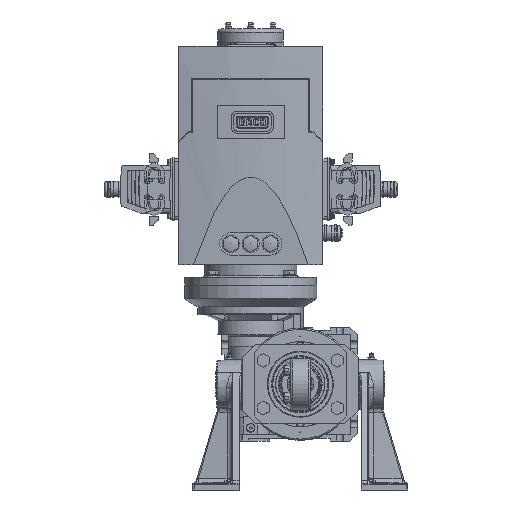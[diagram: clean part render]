
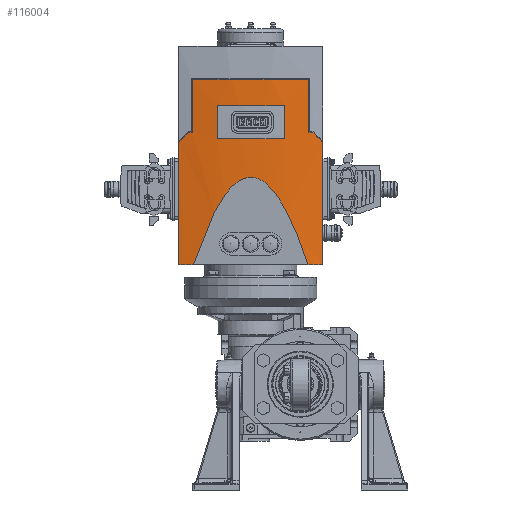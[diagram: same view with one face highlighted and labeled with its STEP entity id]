
A CAD part, front view. The second image highlights one B-rep face of the part: STEP entity #116004.
In plain terms, the highlighted cylindrical face has radius 545.5 mm (diameter 1091 mm), a partial arc.
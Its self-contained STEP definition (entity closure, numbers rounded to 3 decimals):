
#838=ELLIPSE('',#122634,771.453,545.5);
#839=ELLIPSE('',#122641,771.453,545.5);
#842=ELLIPSE('',#122656,10423.044,545.5);
#2537=CIRCLE('',#122636,545.5);
#2538=CIRCLE('',#122639,545.5);
#2539=CIRCLE('',#122643,545.5);
#2540=CIRCLE('',#122647,545.5);
#2541=CIRCLE('',#122649,545.5);
#2542=CIRCLE('',#122663,545.5);
#2543=CIRCLE('',#122664,545.5);
#12404=LINE('',#167459,#20235);
#12409=LINE('',#167473,#20240);
#12416=LINE('',#167493,#20247);
#12418=LINE('',#167497,#20249);
#12427=LINE('',#167530,#20258);
#12428=LINE('',#167535,#20259);
#20235=VECTOR('',#139618,1000.);
#20240=VECTOR('',#139633,1000.);
#20247=VECTOR('',#139654,1000.);
#20249=VECTOR('',#139658,1000.);
#20258=VECTOR('',#139701,1000.);
#20259=VECTOR('',#139706,1000.);
#36066=ORIENTED_EDGE('',*,*,#55076,.T.);
#36067=ORIENTED_EDGE('',*,*,#55090,.T.);
#36068=ORIENTED_EDGE('',*,*,#55083,.T.);
#36069=ORIENTED_EDGE('',*,*,#55086,.T.);
#36070=ORIENTED_EDGE('',*,*,#55088,.T.);
#36071=ORIENTED_EDGE('',*,*,#55111,.T.);
#36072=ORIENTED_EDGE('',*,*,#55112,.T.);
#36073=ORIENTED_EDGE('',*,*,#55104,.T.);
#36074=ORIENTED_EDGE('',*,*,#55113,.T.);
#36075=ORIENTED_EDGE('',*,*,#55114,.F.);
#36076=ORIENTED_EDGE('',*,*,#55079,.T.);
#36077=ORIENTED_EDGE('',*,*,#55082,.T.);
#36078=ORIENTED_EDGE('',*,*,#55095,.T.);
#36079=ORIENTED_EDGE('',*,*,#55097,.T.);
#36080=ORIENTED_EDGE('',*,*,#55093,.T.);
#36081=ORIENTED_EDGE('',*,*,#55098,.T.);
#55076=EDGE_CURVE('',#65562,#65563,#12404,.T.);
#55079=EDGE_CURVE('',#65564,#65565,#838,.T.);
#55082=EDGE_CURVE('',#65565,#65562,#2537,.T.);
#55083=EDGE_CURVE('',#65566,#65567,#12409,.T.);
#55086=EDGE_CURVE('',#65567,#65568,#2538,.T.);
#55088=EDGE_CURVE('',#65568,#65569,#839,.T.);
#55090=EDGE_CURVE('',#65563,#65566,#2539,.T.);
#55093=EDGE_CURVE('',#65570,#65571,#12416,.T.);
#55095=EDGE_CURVE('',#65573,#65572,#12418,.T.);
#55097=EDGE_CURVE('',#65572,#65570,#2540,.T.);
#55098=EDGE_CURVE('',#65571,#65573,#2541,.T.);
#55104=EDGE_CURVE('',#65576,#65577,#842,.T.);
#55111=EDGE_CURVE('',#65569,#65580,#12427,.T.);
#55112=EDGE_CURVE('',#65580,#65576,#2542,.T.);
#55113=EDGE_CURVE('',#65577,#65581,#2543,.T.);
#55114=EDGE_CURVE('',#65564,#65581,#12428,.T.);
#65562=VERTEX_POINT('',#167460);
#65563=VERTEX_POINT('',#167461);
#65564=VERTEX_POINT('',#167466);
#65565=VERTEX_POINT('',#167467);
#65566=VERTEX_POINT('',#167474);
#65567=VERTEX_POINT('',#167475);
#65568=VERTEX_POINT('',#167480);
#65569=VERTEX_POINT('',#167484);
#65570=VERTEX_POINT('',#167490);
#65571=VERTEX_POINT('',#167492);
#65572=VERTEX_POINT('',#167496);
#65573=VERTEX_POINT('',#167498);
#65576=VERTEX_POINT('',#167516);
#65577=VERTEX_POINT('',#167517);
#65580=VERTEX_POINT('',#167531);
#65581=VERTEX_POINT('',#167534);
#73335=EDGE_LOOP('',(#36066,#36067,#36068,#36069,#36070,#36071,#36072,#36073,
#36074,#36075,#36076,#36077));
#73336=EDGE_LOOP('',(#36078,#36079,#36080,#36081));
#79320=FACE_BOUND('',#73335,.T.);
#79321=FACE_BOUND('',#73336,.T.);
#82795=CYLINDRICAL_SURFACE('',#122662,545.5);
#116004=ADVANCED_FACE('',(#79320,#79321),#82795,.T.);
#122634=AXIS2_PLACEMENT_3D('',#167465,#139623,#139624);
#122636=AXIS2_PLACEMENT_3D('',#167471,#139629,#139630);
#122639=AXIS2_PLACEMENT_3D('',#167479,#139638,#139639);
#122641=AXIS2_PLACEMENT_3D('',#167483,#139643,#139644);
#122643=AXIS2_PLACEMENT_3D('',#167487,#139648,#139649);
#122647=AXIS2_PLACEMENT_3D('',#167501,#139662,#139663);
#122649=AXIS2_PLACEMENT_3D('',#167503,#139666,#139667);
#122656=AXIS2_PLACEMENT_3D('',#167515,#139683,#139684);
#122662=AXIS2_PLACEMENT_3D('',#167529,#139699,#139700);
#122663=AXIS2_PLACEMENT_3D('',#167532,#139702,#139703);
#122664=AXIS2_PLACEMENT_3D('',#167533,#139704,#139705);
#139618=DIRECTION('',(0.,1.,0.));
#139623=DIRECTION('',(-0.707,-0.707,0.));
#139624=DIRECTION('',(0.707,-0.707,0.));
#139629=DIRECTION('',(0.,-1.,0.));
#139630=DIRECTION('',(0.2,0.,0.98));
#139633=DIRECTION('',(0.,-1.,0.));
#139638=DIRECTION('',(0.,-1.,0.));
#139639=DIRECTION('',(0.2,0.,0.98));
#139643=DIRECTION('',(0.707,-0.707,0.));
#139644=DIRECTION('',(0.707,0.707,0.));
#139648=DIRECTION('',(0.,-1.,0.));
#139649=DIRECTION('',(0.2,0.,0.98));
#139654=DIRECTION('',(0.,1.,0.));
#139658=DIRECTION('',(0.,-1.,0.));
#139662=DIRECTION('',(0.,-1.,0.));
#139663=DIRECTION('',(0.2,0.,0.98));
#139666=DIRECTION('',(0.,1.,0.));
#139667=DIRECTION('',(0.2,0.,0.98));
#139683=DIRECTION('',(0.,0.052,-0.999));
#139684=DIRECTION('',(0.,0.999,0.052));
#139699=DIRECTION('',(0.,-1.,0.));
#139700=DIRECTION('',(0.2,0.,0.98));
#139701=DIRECTION('',(0.,-1.,0.));
#139702=DIRECTION('',(0.,1.,0.));
#139703=DIRECTION('',(0.2,0.,0.98));
#139704=DIRECTION('',(0.,1.,0.));
#139705=DIRECTION('',(0.2,0.,0.98));
#139706=DIRECTION('',(0.,-1.,0.));
#167459=CARTESIAN_POINT('',(85.5,173.4,247.855));
#167460=CARTESIAN_POINT('',(85.5,173.4,247.855));
#167461=CARTESIAN_POINT('',(85.5,253.9,247.855));
#167465=CARTESIAN_POINT('',(-2.5,267.4,-290.5));
#167466=CARTESIAN_POINT('',(106.5,158.4,243.999));
#167467=CARTESIAN_POINT('',(91.5,173.4,246.84));
#167471=CARTESIAN_POINT('',(-2.5,173.4,-290.5));
#167473=CARTESIAN_POINT('',(-90.5,253.9,247.855));
#167474=CARTESIAN_POINT('',(-90.5,253.9,247.855));
#167475=CARTESIAN_POINT('',(-90.5,173.4,247.855));
#167479=CARTESIAN_POINT('',(-2.5,173.4,-290.5));
#167480=CARTESIAN_POINT('',(-96.5,173.4,246.84));
#167483=CARTESIAN_POINT('',(-2.5,267.4,-290.5));
#167484=CARTESIAN_POINT('',(-111.5,158.4,243.999));
#167487=CARTESIAN_POINT('',(-2.5,253.9,-290.5));
#167490=CARTESIAN_POINT('',(-53.454,163.9,252.615));
#167492=CARTESIAN_POINT('',(-53.454,213.9,252.615));
#167493=CARTESIAN_POINT('',(-53.454,163.9,252.615));
#167496=CARTESIAN_POINT('',(48.454,163.9,252.615));
#167497=CARTESIAN_POINT('',(48.454,213.9,252.615));
#167498=CARTESIAN_POINT('',(48.454,213.9,252.615));
#167501=CARTESIAN_POINT('',(-2.5,163.9,-290.5));
#167503=CARTESIAN_POINT('',(-2.5,213.9,-290.5));
#167515=CARTESIAN_POINT('',(-2.5,-10303.36,-290.5));
#167516=CARTESIAN_POINT('',(-89.1,-26.6,248.082));
#167517=CARTESIAN_POINT('',(84.1,-26.6,248.082));
#167529=CARTESIAN_POINT('',(-2.5,113.65,-290.5));
#167530=CARTESIAN_POINT('',(-111.5,158.4,243.999));
#167531=CARTESIAN_POINT('',(-111.5,-26.6,243.999));
#167532=CARTESIAN_POINT('',(-2.5,-26.6,-290.5));
#167533=CARTESIAN_POINT('',(-2.5,-26.6,-290.5));
#167534=CARTESIAN_POINT('',(106.5,-26.6,243.999));
#167535=CARTESIAN_POINT('',(106.5,158.4,243.999));
